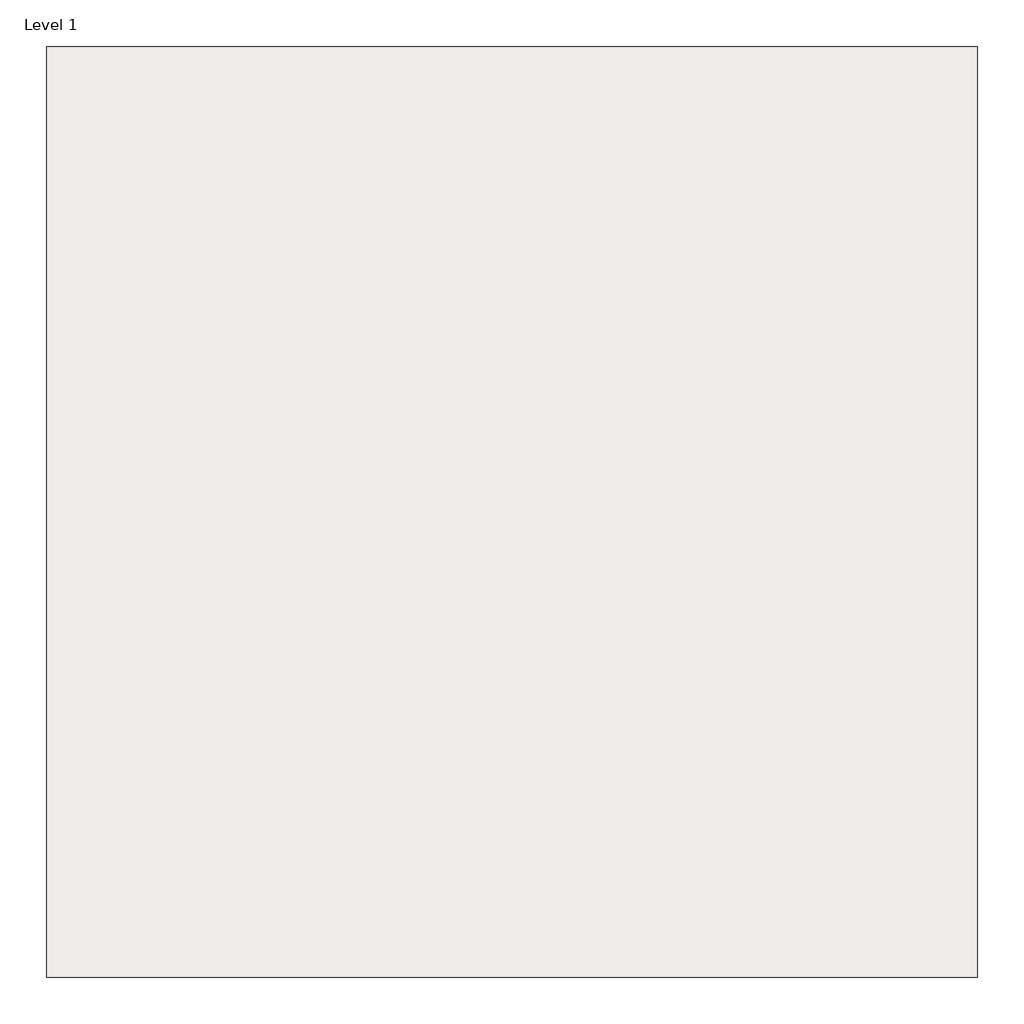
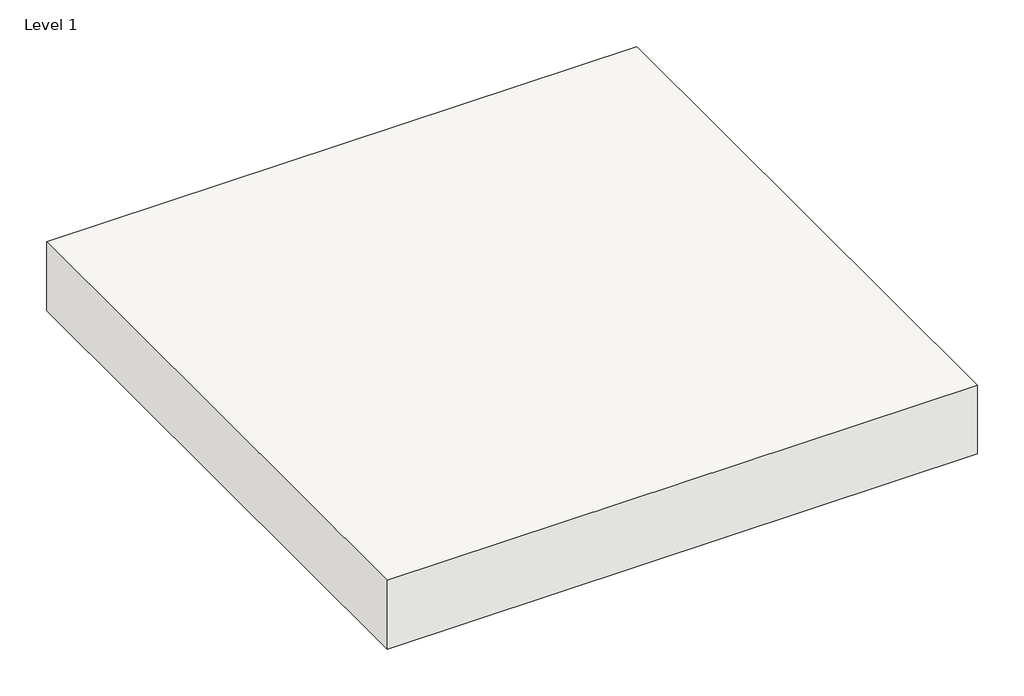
# One storey: 1 slab.
"""IFC4 building model written with IfcOpenShell, lengths in millimetres."""

from ifc_helpers import new_model, si_unit, frame, origin, place, context, project, spatial, polyline, outline, extrude, element, save

model = new_model("IFC4")

# Units and contexts
model_context = context("Model", 3, world=origin())
ifc_project = project(units=[si_unit("LENGTHUNIT", "METRE", prefix="MILLI")], contexts=[model_context])

# Site, building, storey
site = spatial("IfcSite", under=ifc_project)
building = spatial("IfcBuilding", under=site)
storey = spatial("IfcBuildingStorey", under=building, Name="Level 1", Elevation=0.0)

# Slab
placement = place(None, origin())
element("IfcSlab", 1, ObjectType="RIGIPS - 7.51.06 - 58dB", at=placement, inside=storey, context=model_context, shape_type="SweptSolid", body=[
    extrude(outline(polyline([(-1500.0, 1500.0), (1500.0, 1500.0), (1500.0, -1500.0), (-1500.0, -1500.0), (-1500.0, 1500.0)])), frame((0.0, 0.0, -370.5), z_axis=(0.0, 0.0, 1.0), x_axis=(1.0, 0.0, 0.0)), (0.0, 0.0, 1.0), 370.5),
])

save(model, "model.ifc")
